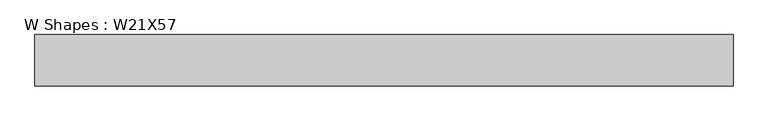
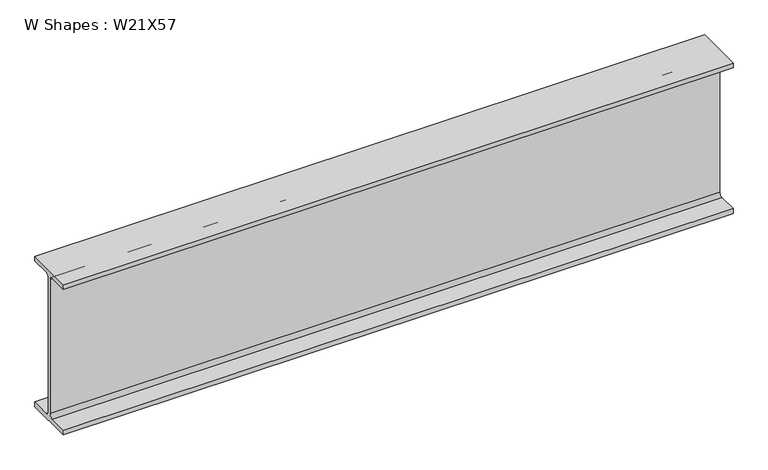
"""IFC4 building model written with IfcOpenShell, lengths in millimetres: beam geometry, W Shapes : W21X57."""

from ifc_helpers import new_model, si_unit, point, frame, frame_2d, origin, place, context, project, spatial, polyline, circle_curve, trimmed, segment, composite_curve, outline, extrude, source, transform, mapped, element, save


def w_shapes_w21x57_eb867012(model_context):
    return source(origin(), model_context, "Body", "SweptSolid", [
        extrude(outline(composite_curve([segment(polyline([(83.312, -251.46), (83.312, -267.97), (-83.312, -267.97), (-83.312, -251.46), (-17.8435, -251.46)]), True, "CONTINUOUS"), segment(trimmed(circle_curve(frame_2d((-17.8435, -238.76)), 12.7), [point((-17.8435, -251.46))], [point((-5.1435, -238.76))], True, "CARTESIAN"), True, "CONTINUOUS"), segment(polyline([(-5.1435, -238.76), (-5.1435, 238.76)]), True, "CONTINUOUS"), segment(trimmed(circle_curve(frame_2d((-17.8435, 238.76)), 12.7), [point((-5.1435, 238.76))], [point((-17.8435, 251.46))], True, "CARTESIAN"), True, "CONTINUOUS"), segment(polyline([(-17.8435, 251.46), (-83.312, 251.46), (-83.312, 267.97), (83.312, 267.97), (83.312, 251.46), (17.8435, 251.46)]), True, "CONTINUOUS"), segment(trimmed(circle_curve(frame_2d((17.8435, 238.76)), 12.7), [point((17.8435, 251.46))], [point((5.1435, 238.76))], True, "CARTESIAN"), True, "CONTINUOUS"), segment(polyline([(5.1435, 238.76), (5.1435, -238.76)]), True, "CONTINUOUS"), segment(trimmed(circle_curve(frame_2d((17.8435, -238.76)), 12.7), [point((5.1435, -238.76))], [point((17.8435, -251.46))], True, "CARTESIAN"), True, "CONTINUOUS"), segment(polyline([(17.8435, -251.46), (83.312, -251.46)]), True, "CONTINUOUS")], self_intersect=False)), frame((-1091.488, 0.0, 0.0), z_axis=(1.0, 0.0, 0.0), x_axis=(0.0, 1.0, 0.0)), (0.0, 0.0, 1.0), 2257.938),
    ])


if __name__ == "__main__":
    model = new_model("IFC4")
    model_context = context("Model", 3, world=origin())
    ifc_project = project(units=[si_unit("LENGTHUNIT", "METRE", prefix="MILLI")], contexts=[model_context])
    site = spatial("IfcSite", under=ifc_project)
    building = spatial("IfcBuilding", under=site)
    placement = place(None, origin())
    w_shapes_w21x57_shape = w_shapes_w21x57_eb867012(model_context)
    element("IfcBeam", 1, ObjectType="W Shapes : W21X57", at=placement, inside=building, context=model_context, shape_type="MappedRepresentation", body=[
        mapped(w_shapes_w21x57_shape, transform((0.0, 0.0, 0.0), x_axis=(1.0, 0.0, 0.0), y_axis=(0.0, 1.0, 0.0), z_axis=(0.0, 0.0, 1.0))),
    ])
    save(model, "model.ifc")
